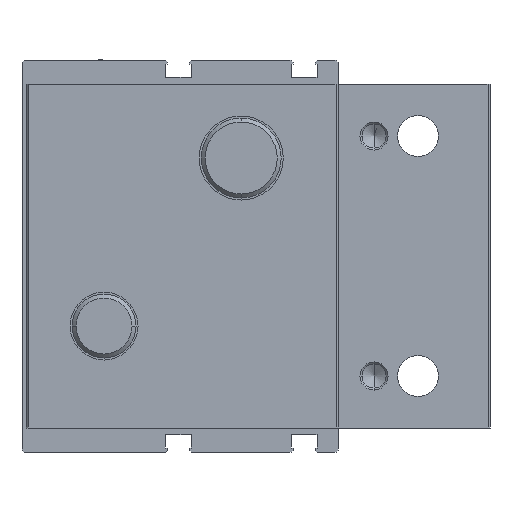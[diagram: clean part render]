
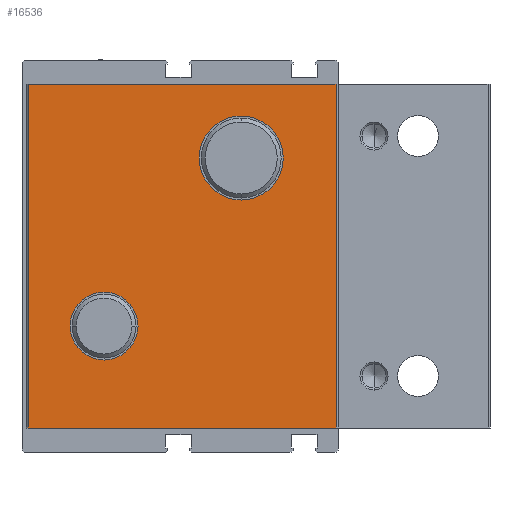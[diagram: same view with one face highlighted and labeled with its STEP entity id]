
A CAD part, left-side view. The second image highlights one B-rep face of the part: STEP entity #16536.
In plain terms, the highlighted planar face has unit normal (-1, 0, 0) as drawn and (1, 0, 0) by its records, which use the part's own axes.
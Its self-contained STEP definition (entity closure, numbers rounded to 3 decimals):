
#171 = CARTESIAN_POINT ( 'NONE',  ( 28., 38.5, 43. ) ) ;
#883 = PLANE ( 'NONE',  #45420 ) ;
#1295 = EDGE_CURVE ( 'NONE', #9353, #44916, #3915, .T. ) ;
#2155 = CARTESIAN_POINT ( 'NONE',  ( 28., 38.5, -43. ) ) ;
#2411 = EDGE_LOOP ( 'NONE', ( #27514, #35364 ) ) ;
#2497 = CARTESIAN_POINT ( 'NONE',  ( 28., 62.2, -24.5 ) ) ;
#3194 = EDGE_CURVE ( 'NONE', #44768, #30139, #28660, .T. ) ;
#3401 = LINE ( 'NONE', #11231, #12112 ) ;
#3915 = CIRCLE ( 'NONE', #45806, 8.5 ) ;
#4128 = CARTESIAN_POINT ( 'NONE',  ( 28., 96.5, 17.5 ) ) ;
#4931 = CARTESIAN_POINT ( 'NONE',  ( 28., 129.5, -43. ) ) ;
#6251 = DIRECTION ( 'NONE',  ( 0., 0., -1. ) ) ;
#7034 = CARTESIAN_POINT ( 'NONE',  ( 28., 62.2, -14. ) ) ;
#7879 = DIRECTION ( 'NONE',  ( 0., 0., -1. ) ) ;
#7950 = DIRECTION ( 'NONE',  ( 0., -1., 0. ) ) ;
#9353 = VERTEX_POINT ( 'NONE', #27268 ) ;
#9477 = LINE ( 'NONE', #4931, #41274 ) ;
#10104 = EDGE_CURVE ( 'NONE', #35753, #14841, #19163, .T. ) ;
#10161 = AXIS2_PLACEMENT_3D ( 'NONE', #15773, #41574, #19473 ) ;
#10590 = CARTESIAN_POINT ( 'NONE',  ( 28., 115.5, 43. ) ) ;
#11231 = CARTESIAN_POINT ( 'NONE',  ( 28., 38.5, 43. ) ) ;
#11487 = ORIENTED_EDGE ( 'NONE', *, *, #1295, .T. ) ;
#11642 = CARTESIAN_POINT ( 'NONE',  ( 28., 129.5, 43. ) ) ;
#11907 = ORIENTED_EDGE ( 'NONE', *, *, #10104, .F. ) ;
#12112 = VECTOR ( 'NONE', #15786, 1000. ) ;
#12624 = EDGE_CURVE ( 'NONE', #16624, #36791, #3401, .T. ) ;
#13408 = ORIENTED_EDGE ( 'NONE', *, *, #34377, .F. ) ;
#14257 = FACE_BOUND ( 'NONE', #2411, .T. ) ;
#14841 = VERTEX_POINT ( 'NONE', #40056 ) ;
#15007 = EDGE_CURVE ( 'NONE', #35753, #36791, #21350, .T. ) ;
#15773 = CARTESIAN_POINT ( 'NONE',  ( 28., 96.5, 17.5 ) ) ;
#15786 = DIRECTION ( 'NONE',  ( 0., 0., 1. ) ) ;
#16390 = CARTESIAN_POINT ( 'NONE',  ( 28., 62.2, -24.5 ) ) ;
#16536 = ADVANCED_FACE ( 'NONE', ( #22899, #33889, #14257 ), #883, .F. ) ;
#16624 = VERTEX_POINT ( 'NONE', #2155 ) ;
#19035 = VECTOR ( 'NONE', #7950, 1000. ) ;
#19163 = LINE ( 'NONE', #10590, #27778 ) ;
#19473 = DIRECTION ( 'NONE',  ( 0., 0., -1. ) ) ;
#19649 = DIRECTION ( 'NONE',  ( -1., 0., 0. ) ) ;
#20081 = EDGE_CURVE ( 'NONE', #30139, #44768, #46427, .T. ) ;
#20093 = DIRECTION ( 'NONE',  ( 0., 0., -1. ) ) ;
#21350 = LINE ( 'NONE', #11642, #19035 ) ;
#22030 = ORIENTED_EDGE ( 'NONE', *, *, #33448, .T. ) ;
#22899 = FACE_OUTER_BOUND ( 'NONE', #40805, .T. ) ;
#27268 = CARTESIAN_POINT ( 'NONE',  ( 28., 96.5, 26. ) ) ;
#27361 = DIRECTION ( 'NONE',  ( 0., -1., 0. ) ) ;
#27514 = ORIENTED_EDGE ( 'NONE', *, *, #3194, .T. ) ;
#27566 = ORIENTED_EDGE ( 'NONE', *, *, #15007, .T. ) ;
#27778 = VECTOR ( 'NONE', #40117, 1000. ) ;
#27961 = EDGE_LOOP ( 'NONE', ( #22030, #11487 ) ) ;
#28364 = DIRECTION ( 'NONE',  ( -1., 0., 0. ) ) ;
#28660 = CIRCLE ( 'NONE', #40594, 10.5 ) ;
#29986 = DIRECTION ( 'NONE',  ( -1., 0., 0. ) ) ;
#30139 = VERTEX_POINT ( 'NONE', #7034 ) ;
#30914 = AXIS2_PLACEMENT_3D ( 'NONE', #16390, #42194, #20093 ) ;
#32172 = CARTESIAN_POINT ( 'NONE',  ( 28., 115.5, 43. ) ) ;
#33448 = EDGE_CURVE ( 'NONE', #44916, #9353, #45311, .T. ) ;
#33889 = FACE_BOUND ( 'NONE', #27961, .T. ) ;
#34377 = EDGE_CURVE ( 'NONE', #14841, #16624, #9477, .T. ) ;
#35364 = ORIENTED_EDGE ( 'NONE', *, *, #20081, .T. ) ;
#35753 = VERTEX_POINT ( 'NONE', #32172 ) ;
#36216 = ORIENTED_EDGE ( 'NONE', *, *, #12624, .F. ) ;
#36791 = VERTEX_POINT ( 'NONE', #171 ) ;
#38019 = CARTESIAN_POINT ( 'NONE',  ( 28., 115.5, 43. ) ) ;
#40056 = CARTESIAN_POINT ( 'NONE',  ( 28., 115.5, -43. ) ) ;
#40117 = DIRECTION ( 'NONE',  ( 0., 0., -1. ) ) ;
#40594 = AXIS2_PLACEMENT_3D ( 'NONE', #2497, #28364, #6251 ) ;
#40805 = EDGE_LOOP ( 'NONE', ( #11907, #27566, #36216, #13408 ) ) ;
#41274 = VECTOR ( 'NONE', #27361, 1000. ) ;
#41574 = DIRECTION ( 'NONE',  ( -1., 0., 0. ) ) ;
#42194 = DIRECTION ( 'NONE',  ( -1., 0., 0. ) ) ;
#44768 = VERTEX_POINT ( 'NONE', #46025 ) ;
#44916 = VERTEX_POINT ( 'NONE', #47289 ) ;
#45311 = CIRCLE ( 'NONE', #10161, 8.5 ) ;
#45420 = AXIS2_PLACEMENT_3D ( 'NONE', #38019, #19649, #45434 ) ;
#45434 = DIRECTION ( 'NONE',  ( 0., 0., 1. ) ) ;
#45806 = AXIS2_PLACEMENT_3D ( 'NONE', #4128, #29986, #7879 ) ;
#46025 = CARTESIAN_POINT ( 'NONE',  ( 28., 62.2, -35. ) ) ;
#46427 = CIRCLE ( 'NONE', #30914, 10.5 ) ;
#47289 = CARTESIAN_POINT ( 'NONE',  ( 28., 96.5, 9. ) ) ;
